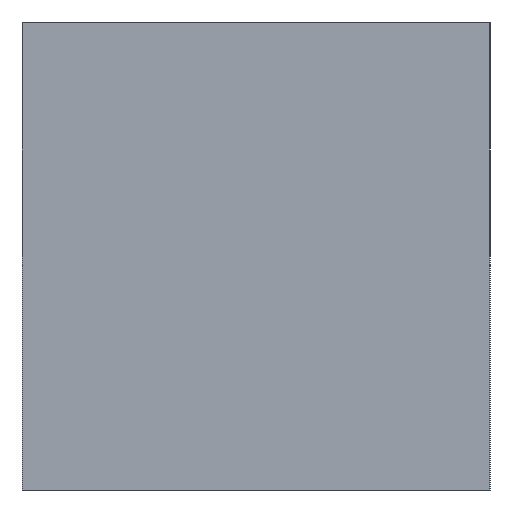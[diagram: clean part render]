
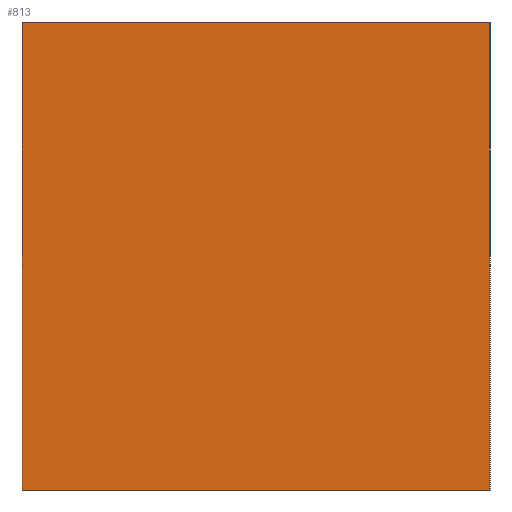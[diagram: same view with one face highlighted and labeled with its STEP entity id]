
A CAD part, left-side view. The second image highlights one B-rep face of the part: STEP entity #813.
In plain terms, the highlighted planar face has unit normal (-1, 0, 0).
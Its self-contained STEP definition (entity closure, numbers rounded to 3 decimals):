
#679=CARTESIAN_POINT('',(-0.315,-0.165,0.0));
#678=VERTEX_POINT('',#679);
#697=CARTESIAN_POINT('',(-0.315,-0.165,0.33));
#696=VERTEX_POINT('',#697);
#705=EDGE_CURVE('',#678,#696,#710,.T.);
#710=LINE('',#679,#712);
#712=VECTOR('',#713,0.33);
#713=DIRECTION('',(0.0,0.0,1.0));
#775=CARTESIAN_POINT('',(-0.315,0.165,0.0));
#774=VERTEX_POINT('',#775);
#785=CARTESIAN_POINT('',(-0.315,0.165,0.33));
#784=VERTEX_POINT('',#785);
#783=EDGE_CURVE('',#784,#774,#788,.T.);
#788=LINE('',#785,#790);
#790=VECTOR('',#791,0.33);
#791=DIRECTION('',(0.0,0.0,-1.0));
#813=ADVANCED_FACE('',(#819),#814,.T.);
#814=PLANE('',#815);
#815=AXIS2_PLACEMENT_3D('',#816,#817,#818);
#816=CARTESIAN_POINT('',(-0.315,0.165,0.0));
#817=DIRECTION('',(-1.0,0.0,0.0));
#818=DIRECTION('',(0.,0.,1.));
#819=FACE_OUTER_BOUND('',#820,.T.);
#820=EDGE_LOOP('',(#821,#831,#841,#851));
#822=EDGE_CURVE('',#678,#774,#827,.T.);
#827=LINE('',#679,#829);
#829=VECTOR('',#830,0.33);
#830=DIRECTION('',(0.0,1.0,0.0));
#821=ORIENTED_EDGE('',*,*,#822,.F.);
#831=ORIENTED_EDGE('',*,*,#705,.T.);
#842=EDGE_CURVE('',#784,#696,#847,.T.);
#847=LINE('',#785,#849);
#849=VECTOR('',#850,0.33);
#850=DIRECTION('',(0.0,-1.0,0.0));
#841=ORIENTED_EDGE('',*,*,#842,.F.);
#851=ORIENTED_EDGE('',*,*,#783,.T.);
